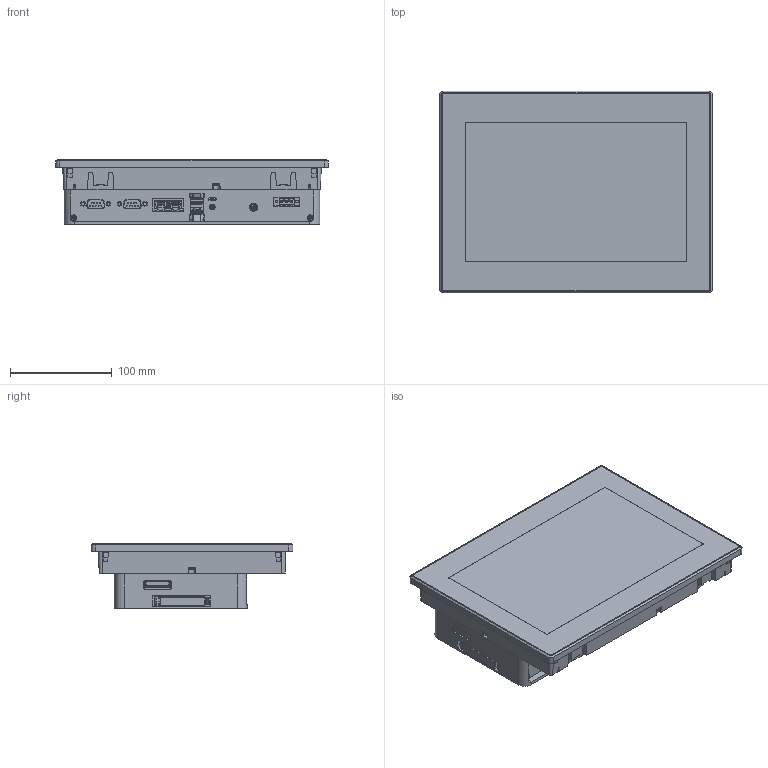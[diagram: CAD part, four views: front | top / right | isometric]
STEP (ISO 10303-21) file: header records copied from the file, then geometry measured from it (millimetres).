
FILE_DESCRIPTION(('STEP AP214'),'1');
FILE_NAME('HMI_10W_WXGA_DC_3D-simpl_TK_UPDATE.stp','2025-10-23T01:59:42',(' '),(' '),'Spatial InterOp 3D',' ',' ');
FILE_SCHEMA(('AUTOMOTIVE_DESIGN { 1 0 10303 214 1 1 1 1 }'));
Length unit declared in the file: metre
Products named in the file (5): HMI_10W_WXGA_DC_3D-simpl_TK_UPDATE; Component12; Component22; Component32
Assembly tree (4 placements, depth 3):
  HMI_10W_WXGA_DC_3D-simpl_TK_UPDATE
    HMI_10W_WXGA_DC_3D-simpl_TK_UPDATE
      Component12
      Component22
      Component32
Bounding box: 268.5 x 198.5 x 64.28 mm (x, y, z)
Volume: 2230588.7 mm3; surface area: 298896.9 mm2
Topology: 3 solids, 9 shells, 2653 faces, 7367 edges, 4794 vertices
Faces by surface type: plane 1622, cylinder 649, cone 166, bspline 149, torus 42, sphere 25
Full cylindrical faces by diameter (mm): 0.99 x18, 2.5 x4, 2.55 x8, 2.8 x2, 2.845 x4, 4.3 x4, 4.5 x1, 5.6 x11, 6 x6, 8 x1, 8.454 x6, 41.07 x1
Entity records: 92012 total; most frequent: CARTESIAN_POINT 25483, ORIENTED_EDGE 14334, DIRECTION 12922, EDGE_CURVE 7167, LINE 4786, VECTOR 4786, VERTEX_POINT 4762, AXIS2_PLACEMENT_3D 4068
